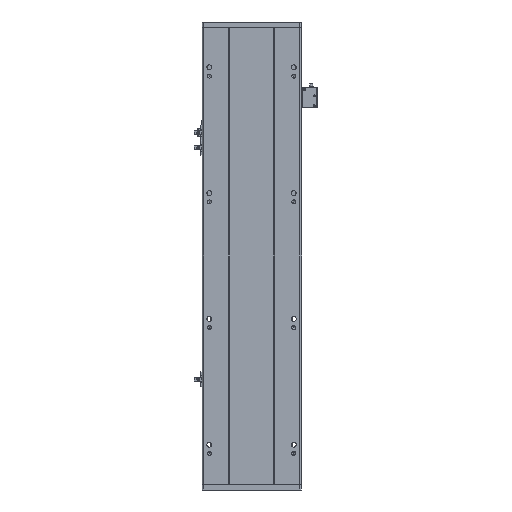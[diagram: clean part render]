
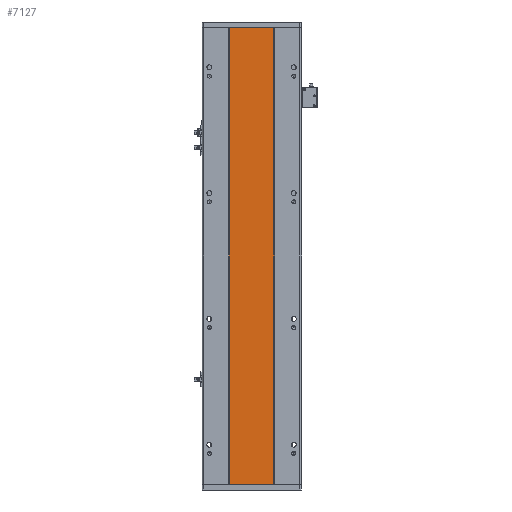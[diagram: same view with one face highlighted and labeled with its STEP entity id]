
A CAD part, front view. The second image highlights one B-rep face of the part: STEP entity #7127.
In plain terms, the highlighted planar face has unit normal (0, -1, 0).
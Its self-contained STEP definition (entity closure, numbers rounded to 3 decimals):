
#134 = ORIENTED_EDGE ( 'NONE', *, *, #20599, .F. ) ;
#1261 = VERTEX_POINT ( 'NONE', #25033 ) ;
#1690 = DIRECTION ( 'NONE',  ( 1., 0., 0. ) ) ;
#4029 = VECTOR ( 'NONE', #1690, 1000. ) ;
#4827 = ORIENTED_EDGE ( 'NONE', *, *, #22885, .T. ) ;
#7127 = ADVANCED_FACE ( 'NONE', ( #15644 ), #28605, .F. ) ;
#7276 = CARTESIAN_POINT ( 'NONE',  ( 205.288, 16.9, 0. ) ) ;
#7871 = LINE ( 'NONE', #17708, #13780 ) ;
#8282 = EDGE_CURVE ( 'NONE', #14955, #8416, #22576, .T. ) ;
#8416 = VERTEX_POINT ( 'NONE', #9139 ) ;
#8537 = CARTESIAN_POINT ( 'NONE',  ( 205.288, 16.9, 784. ) ) ;
#9139 = CARTESIAN_POINT ( 'NONE',  ( 205.288, 16.9, 784. ) ) ;
#10517 = CARTESIAN_POINT ( 'NONE',  ( 129.288, 16.9, 784. ) ) ;
#12377 = LINE ( 'NONE', #17405, #15191 ) ;
#12937 = CARTESIAN_POINT ( 'NONE',  ( 205.288, 16.9, 784. ) ) ;
#13025 = DIRECTION ( 'NONE',  ( -1., 0., 0. ) ) ;
#13780 = VECTOR ( 'NONE', #24447, 1000. ) ;
#14955 = VERTEX_POINT ( 'NONE', #20203 ) ;
#15191 = VECTOR ( 'NONE', #24146, 1000. ) ;
#15644 = FACE_OUTER_BOUND ( 'NONE', #27816, .T. ) ;
#15968 = ORIENTED_EDGE ( 'NONE', *, *, #23020, .T. ) ;
#17405 = CARTESIAN_POINT ( 'NONE',  ( 129.288, 16.9, 784. ) ) ;
#17708 = CARTESIAN_POINT ( 'NONE',  ( 205.288, 16.9, 0. ) ) ;
#18142 = ORIENTED_EDGE ( 'NONE', *, *, #8282, .F. ) ;
#18804 = VECTOR ( 'NONE', #28609, 1000. ) ;
#20203 = CARTESIAN_POINT ( 'NONE',  ( 129.288, 16.9, 784. ) ) ;
#20599 = EDGE_CURVE ( 'NONE', #8416, #23996, #21220, .T. ) ;
#21220 = LINE ( 'NONE', #12937, #18804 ) ;
#22576 = LINE ( 'NONE', #10517, #4029 ) ;
#22885 = EDGE_CURVE ( 'NONE', #14955, #1261, #12377, .T. ) ;
#23020 = EDGE_CURVE ( 'NONE', #1261, #23996, #7871, .T. ) ;
#23996 = VERTEX_POINT ( 'NONE', #7276 ) ;
#24146 = DIRECTION ( 'NONE',  ( 0., 0., -1. ) ) ;
#24447 = DIRECTION ( 'NONE',  ( 1., 0., 0. ) ) ;
#25033 = CARTESIAN_POINT ( 'NONE',  ( 129.288, 16.9, 0. ) ) ;
#26432 = DIRECTION ( 'NONE',  ( 0., 1., 0. ) ) ;
#26635 = AXIS2_PLACEMENT_3D ( 'NONE', #8537, #26432, #13025 ) ;
#27816 = EDGE_LOOP ( 'NONE', ( #15968, #134, #18142, #4827 ) ) ;
#28605 = PLANE ( 'NONE',  #26635 ) ;
#28609 = DIRECTION ( 'NONE',  ( 0., 0., -1. ) ) ;
